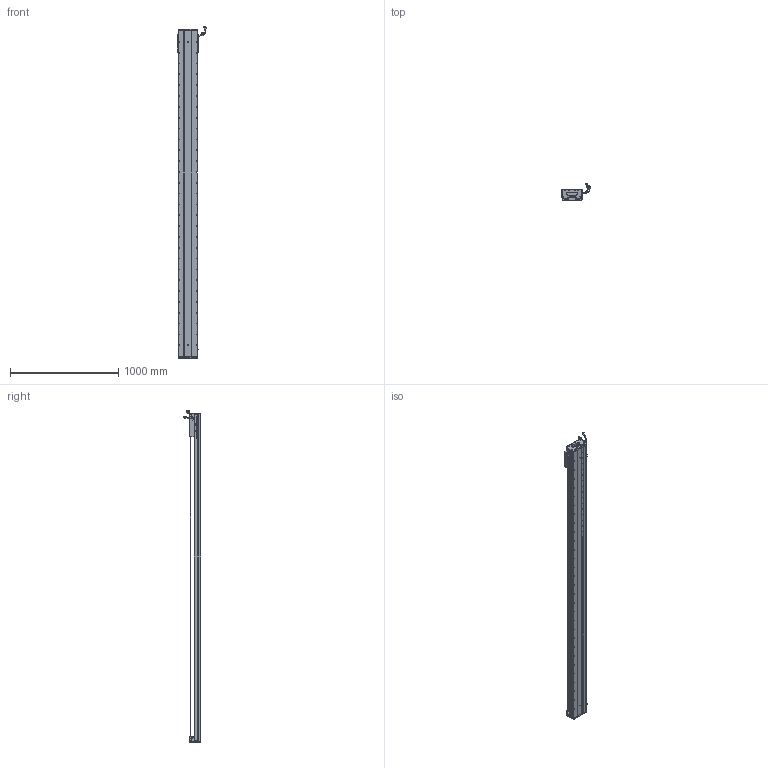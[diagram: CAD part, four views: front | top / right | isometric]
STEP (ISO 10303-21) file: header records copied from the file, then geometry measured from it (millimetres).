
FILE_DESCRIPTION (( 'STEP AP203' ), '1' );
FILE_NAME ('Z2-RY170D-1-L500-B-K.SLDASM_2750.step', '2021-05-17T09:11:58', ( '盈信电脑' ), ( '东莞市道滘镇水果街19号' ), 'SwSTEP 2.0', 'SolidWorks 2016', '' );
FILE_SCHEMA (( 'CONFIG_CONTROL_DESIGN' ));
Length unit declared in the file: millimetre
Products named in the file (36): 榋妏寠巭燃_暯_M2_2; Z2-RY170臏賑輸(21遴); 080黍杅芛假蚾釱21遴; Z-RY170詩湍狟揤裔; Z-RY170詩湍奻揤裔; HARNESS; SEAL; SCREW-M1.7; SCREW-M1.6-3; SCALE-Part-2; 170-Z-臏賑輸盄裔(21遴); SEAL-Part-1; SCREW-M1.6; SCREW-M1.7-1; HARNESS-Part-1; Z2-RY170D-1-L500-B-K.SLDASM_2750; Z2-RY170-L500耀郪菁釱_2750; LABEL-Part-1; Z-170詩湍傷裔啣; SCREW-M1.6-1; HOLDER0; COVER-Part-1; SCALE-Part-1; PBU_SHEET; 覜茼ん672; HARNESS-Part-2; Z2-RY170-L500詩湍145mm遵_2750; SCALE; RY170直线电机感应器672光电感应片; 140雄赽晤鎢ん堤盄; 140蚥薯蝶輸; LABEL; SCREW-M1.6-2; SHIELDPLATE; COVER; PSLH080_PSLF2
Assembly tree (41 placements, depth 4):
  Z2-RY170D-1-L500-B-K.SLDASM_2750
    Z2-RY170-L500耀郪菁釱_2750
    RY170直线电机感应器672光电感应片
    Z2-RY170臏賑輸(21遴)
    覜茼ん672  x3
    PSLH080_PSLF2
      SCALE
        SCALE-Part-1
        SCALE-Part-2
      HARNESS
        HARNESS-Part-1
        HARNESS-Part-2
      LABEL
        LABEL-Part-1
      COVER
        COVER-Part-1
      SEAL
        SEAL-Part-1
      榋妏寠巭燃_暯_M2_2
      SHIELDPLATE
      SCREW-M1.7
      SCREW-M1.7-1
      PBU_SHEET
      SCREW-M1.6
      SCREW-M1.6-1
      SCREW-M1.6-2
      SCREW-M1.6-3
      HOLDER0
    080黍杅芛假蚾釱21遴
    Z2-RY170-L500詩湍145mm遵_2750
    Z-170詩湍傷裔啣  x2
    Z-RY170詩湍奻揤裔  x2
    Z-RY170詩湍狟揤裔  x2
    140蚥薯蝶輸  x2
    170-Z-臏賑輸盄裔(21遴)
    140雄赽晤鎢ん堤盄
Bounding box: 275.29 x 158.11 x 3063.72 mm (x, y, z)
Volume: 14762976 mm3; surface area: 3665698 mm2
Topology: 36 solids, 36 shells, 4310 faces, 12021 edges, 7495 vertices
Faces by surface type: cylinder 2208, plane 1348, cone 632, torus 69, bspline 53
Entity records: 137313 total; most frequent: CARTESIAN_POINT 38972, ORIENTED_EDGE 20382, DIRECTION 18831, EDGE_CURVE 10191, AXIS2_PLACEMENT_3D 6952, VERTEX_POINT 6613, VECTOR 4927, LINE 4927
